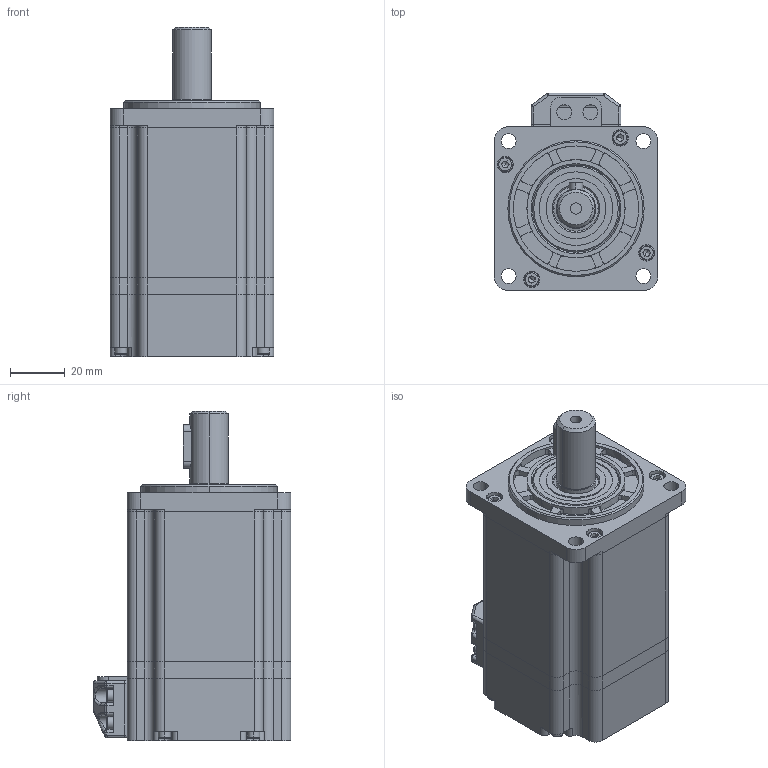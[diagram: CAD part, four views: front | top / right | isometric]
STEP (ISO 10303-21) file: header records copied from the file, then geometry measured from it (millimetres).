
FILE_DESCRIPTION (( 'STEP AP203' ), '1' );
FILE_NAME ('SMC60S-0020-30MAK-3DSU.STEP', '2018-10-27T01:44:04', ( 'admin' ), ( '' ), 'SwSTEP 2.0', 'SolidWorks 2016', '' );
FILE_SCHEMA (( 'CONFIG_CONTROL_DESIGN' ));
Length unit declared in the file: millimetre
Products named in the file (1): SMC60S-0020-30MAK-3DSU
Bounding box: 60 x 72.5 x 121 mm (x, y, z)
Surface area: 33829.8 mm2 (no closed solid volume)
Topology: 0 solids, 23 shells, 543 faces, 1591 edges, 1000 vertices
Faces by surface type: plane 230, cylinder 217, cone 38, torus 26, sphere 24, bspline 8
Entity records: 17883 total; most frequent: CARTESIAN_POINT 3455, DIRECTION 3263, ORIENTED_EDGE 2653, EDGE_CURVE 1549, AXIS2_PLACEMENT_3D 1196, VERTEX_POINT 1000, VECTOR 871, LINE 871
